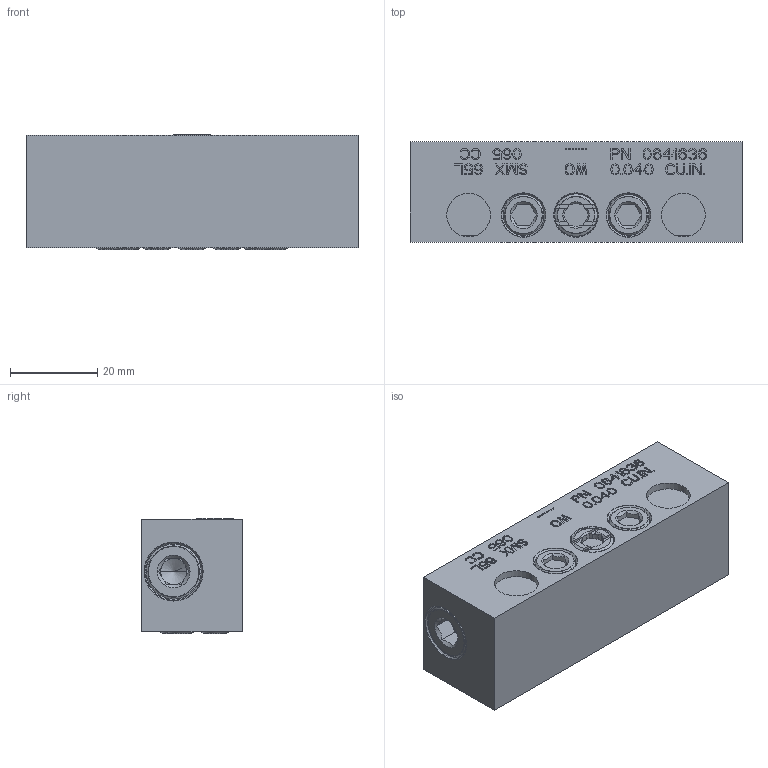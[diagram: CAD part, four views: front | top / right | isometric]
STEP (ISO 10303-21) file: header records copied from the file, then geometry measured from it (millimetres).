
FILE_DESCRIPTION((''),'2;1');
FILE_NAME('0641636_SMX_65L','2023-07-21T11:15:26',('pietro.masciave'),(''),'CREO PARAMETRIC BY PTC INC, 2022281','CREO PARAMETRIC BY PTC INC, 2022281','');
FILE_SCHEMA(('CONFIG_CONTROL_DESIGN'));
Length unit declared in the file: millimetre
Products named in the file (1): 0641636_SMX_65L
Bounding box: 76 x 23 x 26.33 mm (x, y, z)
Volume: 43968.4 mm3; surface area: 12620.5 mm2
Topology: 1 solids, 14 shells, 1413 faces, 3923 edges, 2607 vertices
Faces by surface type: plane 1239, cylinder 108, cone 44, torus 22
Entity records: 45529 total; most frequent: CARTESIAN_POINT 9071, ORIENTED_EDGE 7798, DIRECTION 7038, EDGE_CURVE 3919, VECTOR 3490, LINE 3490, VERTEX_POINT 2607, AXIS2_PLACEMENT_3D 1774
